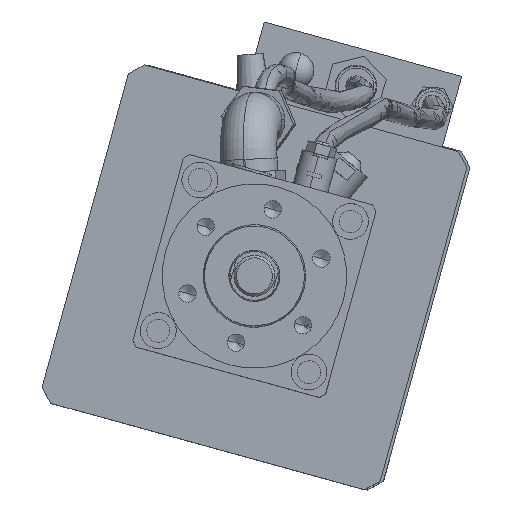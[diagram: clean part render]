
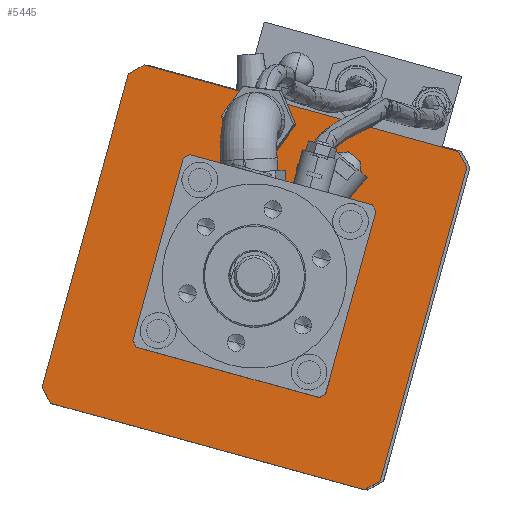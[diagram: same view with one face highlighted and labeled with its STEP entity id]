
A CAD part, top view. The second image highlights one B-rep face of the part: STEP entity #5445.
In plain terms, the highlighted planar face has unit normal (0, 0, 1).
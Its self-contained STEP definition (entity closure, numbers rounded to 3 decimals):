
#1200 = CARTESIAN_POINT ( 'NONE',  ( -0.667, 403.144, -193.543 ) ) ;
#1542 = CARTESIAN_POINT ( 'NONE',  ( -34.399, 280.706, -193.543 ) ) ;
#1768 = LINE ( 'NONE', #3507, #13831 ) ;
#2614 = CARTESIAN_POINT ( 'NONE',  ( -132.746, 439.532, -193.543 ) ) ;
#3362 = ORIENTED_EDGE ( 'NONE', *, *, #13804, .T. ) ;
#3507 = CARTESIAN_POINT ( 'NONE',  ( 0.661, 407.964, -193.543 ) ) ;
#3783 = ORIENTED_EDGE ( 'NONE', *, *, #12604, .T. ) ;
#4394 = VERTEX_POINT ( 'NONE', #11690 ) ;
#4858 = CARTESIAN_POINT ( 'NONE',  ( -40.547, 277.213, -193.543 ) ) ;
#5445 = ADVANCED_FACE ( 'NONE', ( #22359 ), #23956, .F. ) ;
#5817 = LINE ( 'NONE', #17814, #20228 ) ;
#6179 = LINE ( 'NONE', #12167, #21124 ) ;
#6656 = CARTESIAN_POINT ( 'NONE',  ( -126.597, 443.024, -193.543 ) ) ;
#7753 = VERTEX_POINT ( 'NONE', #1542 ) ;
#7876 = EDGE_CURVE ( 'NONE', #24980, #7753, #6179, .T. ) ;
#8659 = CARTESIAN_POINT ( 'NONE',  ( -162.985, 310.945, -193.543 ) ) ;
#9629 = LINE ( 'NONE', #25364, #21578 ) ;
#9671 = CARTESIAN_POINT ( 'NONE',  ( -0.667, 403.144, -193.543 ) ) ;
#9673 = CARTESIAN_POINT ( 'NONE',  ( -40.547, 277.213, -193.543 ) ) ;
#9809 = ORIENTED_EDGE ( 'NONE', *, *, #21084, .T. ) ;
#9942 = EDGE_LOOP ( 'NONE', ( #14301, #9809, #18640, #3783, #9983, #18241, #25873, #3362 ) ) ;
#9983 = ORIENTED_EDGE ( 'NONE', *, *, #10984, .F. ) ;
#10119 = EDGE_CURVE ( 'NONE', #16957, #11472, #19942, .T. ) ;
#10331 = DIRECTION ( 'NONE',  ( -0.964, 0.266, 0. ) ) ;
#10984 = EDGE_CURVE ( 'NONE', #13602, #4394, #1768, .T. ) ;
#11193 = VECTOR ( 'NONE', #17533, 1000. ) ;
#11472 = VERTEX_POINT ( 'NONE', #8659 ) ;
#11607 = DIRECTION ( 'NONE',  ( 0.964, -0.266, 0. ) ) ;
#11690 = CARTESIAN_POINT ( 'NONE',  ( -4.159, 409.293, -193.543 ) ) ;
#12167 = CARTESIAN_POINT ( 'NONE',  ( 0.661, 407.964, -193.543 ) ) ;
#12604 = EDGE_CURVE ( 'NONE', #24980, #4394, #23832, .T. ) ;
#13602 = VERTEX_POINT ( 'NONE', #6656 ) ;
#13804 = EDGE_CURVE ( 'NONE', #20921, #11472, #15951, .T. ) ;
#13831 = VECTOR ( 'NONE', #11607, 1000. ) ;
#14165 = EDGE_CURVE ( 'NONE', #13602, #16891, #5817, .T. ) ;
#14177 = CARTESIAN_POINT ( 'NONE',  ( -35.727, 275.885, -193.543 ) ) ;
#14301 = ORIENTED_EDGE ( 'NONE', *, *, #10119, .F. ) ;
#14526 = AXIS2_PLACEMENT_3D ( 'NONE', #21951, #24649, #18475 ) ;
#15951 = LINE ( 'NONE', #22510, #25713 ) ;
#16078 = CARTESIAN_POINT ( 'NONE',  ( -166.478, 317.094, -193.543 ) ) ;
#16153 = EDGE_CURVE ( 'NONE', #20921, #16891, #9629, .T. ) ;
#16201 = DIRECTION ( 'NONE',  ( 0.87, 0.494, 0. ) ) ;
#16298 = DIRECTION ( 'NONE',  ( -0.266, -0.964, 0. ) ) ;
#16891 = VERTEX_POINT ( 'NONE', #2614 ) ;
#16957 = VERTEX_POINT ( 'NONE', #4858 ) ;
#17533 = DIRECTION ( 'NONE',  ( -0.494, 0.87, 0. ) ) ;
#17814 = CARTESIAN_POINT ( 'NONE',  ( -126.597, 443.024, -193.543 ) ) ;
#17819 = LINE ( 'NONE', #9673, #23607 ) ;
#18241 = ORIENTED_EDGE ( 'NONE', *, *, #14165, .T. ) ;
#18475 = DIRECTION ( 'NONE',  ( -0.964, 0.266, 0. ) ) ;
#18640 = ORIENTED_EDGE ( 'NONE', *, *, #7876, .F. ) ;
#19942 = LINE ( 'NONE', #14177, #23602 ) ;
#19944 = DIRECTION ( 'NONE',  ( -0.87, -0.494, 0. ) ) ;
#20228 = VECTOR ( 'NONE', #19944, 1000. ) ;
#20921 = VERTEX_POINT ( 'NONE', #16078 ) ;
#21084 = EDGE_CURVE ( 'NONE', #16957, #7753, #17819, .T. ) ;
#21124 = VECTOR ( 'NONE', #16298, 1000. ) ;
#21578 = VECTOR ( 'NONE', #21895, 1000. ) ;
#21895 = DIRECTION ( 'NONE',  ( 0.266, 0.964, 0. ) ) ;
#21951 = CARTESIAN_POINT ( 'NONE',  ( -245.001, 473.929, -193.543 ) ) ;
#21957 = DIRECTION ( 'NONE',  ( 0.494, -0.87, 0. ) ) ;
#22359 = FACE_OUTER_BOUND ( 'NONE', #9942, .T. ) ;
#22510 = CARTESIAN_POINT ( 'NONE',  ( -166.478, 317.094, -193.543 ) ) ;
#23602 = VECTOR ( 'NONE', #10331, 1000. ) ;
#23607 = VECTOR ( 'NONE', #16201, 1000. ) ;
#23832 = LINE ( 'NONE', #9671, #11193 ) ;
#23956 = PLANE ( 'NONE',  #14526 ) ;
#24649 = DIRECTION ( 'NONE',  ( 0., 0., -1. ) ) ;
#24980 = VERTEX_POINT ( 'NONE', #1200 ) ;
#25364 = CARTESIAN_POINT ( 'NONE',  ( -131.418, 444.353, -193.543 ) ) ;
#25713 = VECTOR ( 'NONE', #21957, 1000. ) ;
#25873 = ORIENTED_EDGE ( 'NONE', *, *, #16153, .F. ) ;
